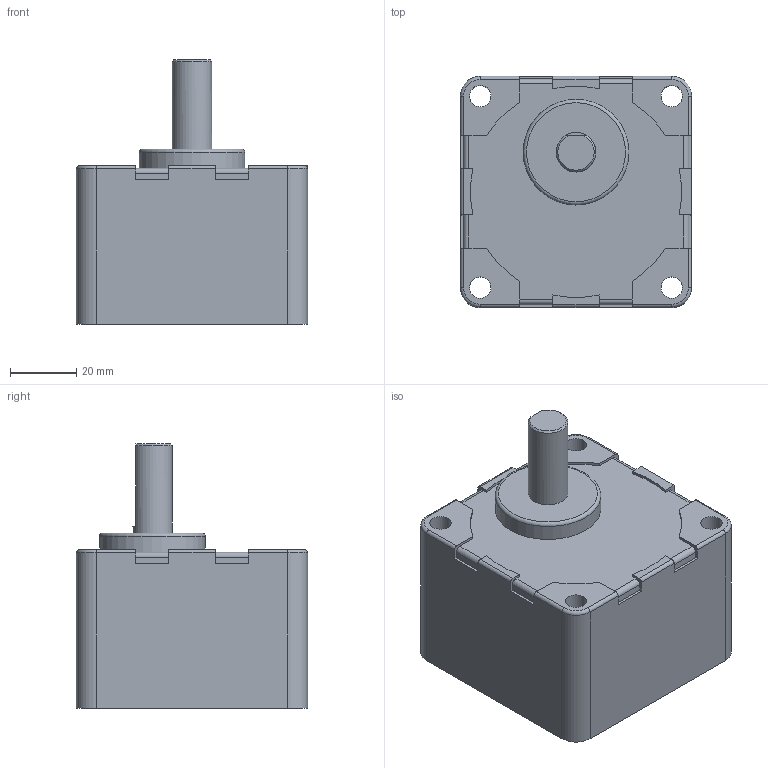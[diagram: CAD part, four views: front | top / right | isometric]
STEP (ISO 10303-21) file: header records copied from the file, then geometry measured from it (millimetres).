
FILE_DESCRIPTION(/* description */ (''),/* implementation_level */ '2;1');
FILE_NAME(/* name */ 'E:\도면작업\2016\0704) 미주향 SG 도면\3D GEAR HEAD\SG7DA150~360.stp',/* time_stamp */ '2016-07-22T14:01:53+09:00',/* author */ ('jy-jung'),/* organization */ (''),/* preprocessor_version */ 'ST-DEVELOPER v15.6',/* originating_system */ 'Autodesk Inventor 2015',/* authorisation */ '');
FILE_SCHEMA (('AUTOMOTIVE_DESIGN { 1 0 10303 214 3 1 1 }'));
Length unit declared in the file: millimetre
Products named in the file (1): SG7DA150~360
Bounding box: 70 x 70 x 80 mm (x, y, z)
Volume: 223236.3 mm3; surface area: 28689.4 mm2
Topology: 1 solids, 1 shells, 99 faces, 268 edges, 175 vertices
Faces by surface type: plane 52, cylinder 39, torus 5, cone 3
Full cylindrical faces by diameter (mm): 6.5 x4, 7.5 x1, 12 x1, 32 x1, 65 x1
Entity records: 3095 total; most frequent: DIRECTION 541, CARTESIAN_POINT 534, ORIENTED_EDGE 512, EDGE_CURVE 256, AXIS2_PLACEMENT_3D 187, VERTEX_POINT 174, LINE 167, VECTOR 167
